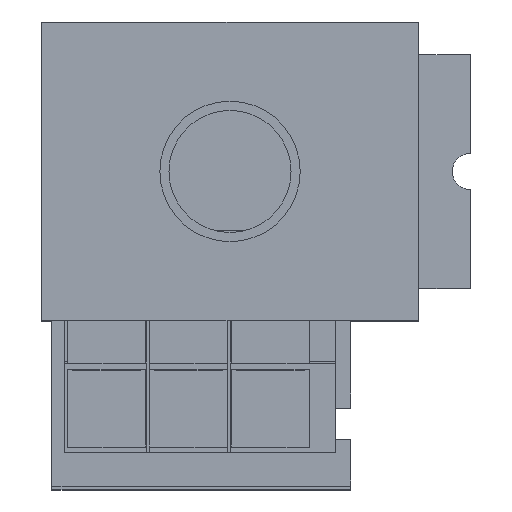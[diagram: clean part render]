
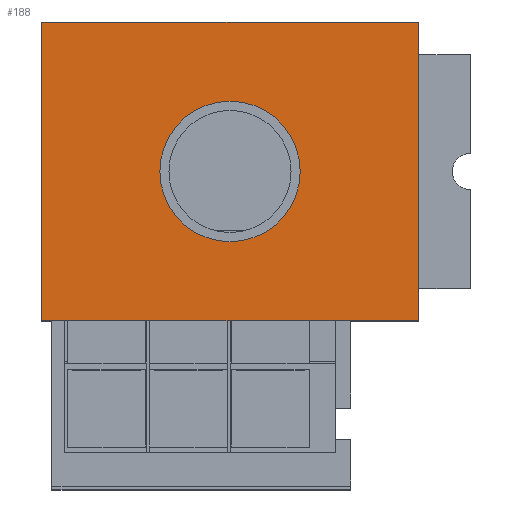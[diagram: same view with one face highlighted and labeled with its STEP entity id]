
A CAD part, top view. The second image highlights one B-rep face of the part: STEP entity #188.
In plain terms, the highlighted planar face has unit normal (0, 0, 1).
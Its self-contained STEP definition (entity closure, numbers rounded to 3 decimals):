
#90 = VERTEX_POINT('',#91);
#91 = CARTESIAN_POINT('',(0.,0.,75.));
#106 = VERTEX_POINT('',#107);
#107 = CARTESIAN_POINT('',(0.,230.,75.));
#113 = EDGE_CURVE('',#90,#106,#114,.T.);
#114 = LINE('',#115,#116);
#115 = CARTESIAN_POINT('',(0.,0.,75.));
#116 = VECTOR('',#117,1.);
#117 = DIRECTION('',(-0.,1.,0.));
#136 = EDGE_CURVE('',#90,#137,#139,.T.);
#137 = VERTEX_POINT('',#138);
#138 = CARTESIAN_POINT('',(290.,0.,75.));
#139 = LINE('',#140,#141);
#140 = CARTESIAN_POINT('',(0.,0.,75.));
#141 = VECTOR('',#142,1.);
#142 = DIRECTION('',(1.,0.,-0.));
#188 = ADVANCED_FACE('',(#189,#207),#218,.T.);
#189 = FACE_BOUND('',#190,.T.);
#190 = EDGE_LOOP('',(#191,#192,#193,#201));
#191 = ORIENTED_EDGE('',*,*,#113,.F.);
#192 = ORIENTED_EDGE('',*,*,#136,.T.);
#193 = ORIENTED_EDGE('',*,*,#194,.T.);
#194 = EDGE_CURVE('',#137,#195,#197,.T.);
#195 = VERTEX_POINT('',#196);
#196 = CARTESIAN_POINT('',(290.,230.,75.));
#197 = LINE('',#198,#199);
#198 = CARTESIAN_POINT('',(290.,0.,75.));
#199 = VECTOR('',#200,1.);
#200 = DIRECTION('',(-0.,1.,0.));
#201 = ORIENTED_EDGE('',*,*,#202,.F.);
#202 = EDGE_CURVE('',#106,#195,#203,.T.);
#203 = LINE('',#204,#205);
#204 = CARTESIAN_POINT('',(0.,230.,75.));
#205 = VECTOR('',#206,1.);
#206 = DIRECTION('',(1.,0.,-0.));
#207 = FACE_BOUND('',#208,.T.);
#208 = EDGE_LOOP('',(#209));
#209 = ORIENTED_EDGE('',*,*,#210,.F.);
#210 = EDGE_CURVE('',#211,#211,#213,.T.);
#211 = VERTEX_POINT('',#212);
#212 = CARTESIAN_POINT('',(199.,115.,75.));
#213 = CIRCLE('',#214,54.);
#214 = AXIS2_PLACEMENT_3D('',#215,#216,#217);
#215 = CARTESIAN_POINT('',(145.,115.,75.));
#216 = DIRECTION('',(0.,0.,1.));
#217 = DIRECTION('',(1.,0.,-0.));
#218 = PLANE('',#219);
#219 = AXIS2_PLACEMENT_3D('',#220,#221,#222);
#220 = CARTESIAN_POINT('',(0.,0.,75.));
#221 = DIRECTION('',(0.,0.,1.));
#222 = DIRECTION('',(1.,0.,-0.));
